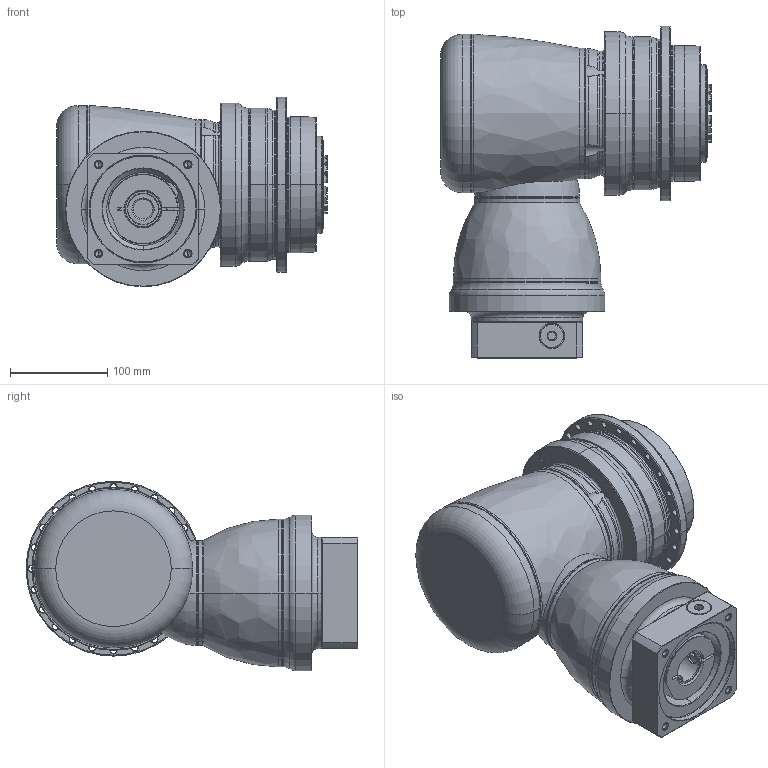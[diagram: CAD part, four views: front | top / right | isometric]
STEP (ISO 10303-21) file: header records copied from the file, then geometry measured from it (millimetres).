
FILE_DESCRIPTION((''),'2;1');
FILE_NAME('APCK140_2ST_32-P0409710201_ASM','2018-05-09T',('d01226'),(''),'PRO/ENGINEER BY PARAMETRIC TECHNOLOGY CORPORATION, 2008410','PRO/ENGINEER BY PARAMETRIC TECHNOLOGY CORPORATION, 2008410','');
FILE_SCHEMA(('CONFIG_CONTROL_DESIGN'));
Length unit declared in the file: millimetre
Products named in the file (13): P1008500002; P1802510011; P0278501003; P03595D0103; P1211500001; P1315500001; P1007501001; P1318501201; P0409710201; P0503700010; P0912552001; 21711418017; APCK140_2ST_32-P0409710201_ASM
Assembly tree (12 placements, depth 2):
  APCK140_2ST_32-P0409710201_ASM
    P1008500002
    P1802510011
    P0278501003
    P03595D0103
    P1211500001
    P1315500001
    P1007501001
    P1318501201
    P0409710201
    P0503700010
    P0912552001
    21711418017
Bounding box: 278.6 x 341.5 x 195 mm (x, y, z)
Volume: 7345054.5 mm3; surface area: 658239.2 mm2
Topology: 13 solids, 23 shells, 792 faces, 1880 edges, 1158 vertices
Faces by surface type: cylinder 264, cone 229, plane 145, torus 133, bspline 19, sphere 2
Entity records: 29176 total; most frequent: CARTESIAN_POINT 10284, DIRECTION 4240, ORIENTED_EDGE 3690, EDGE_CURVE 1866, AXIS2_PLACEMENT_3D 1855, VERTEX_POINT 1158, CIRCLE 1047, EDGE_LOOP 914
